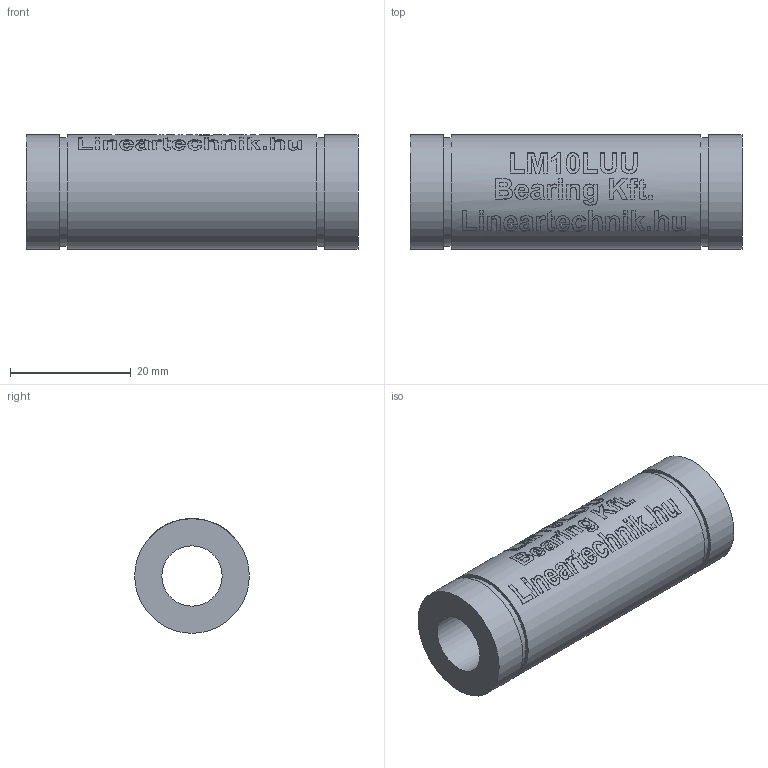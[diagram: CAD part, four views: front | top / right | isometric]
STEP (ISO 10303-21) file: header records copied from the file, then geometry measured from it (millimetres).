
FILE_DESCRIPTION(/* description */ (''),/* implementation_level */ '2;1');
FILE_NAME(/* name */ 'LM10LUU',/* time_stamp */ '2019-05-16T09:38:06+02:00',/* author */ ('VĂ©gh MĂˇtĂ©'),/* organization */ ('Bearing Kft'),/* preprocessor_version */ 'ST-DEVELOPER v16.7',/* originating_system */ 'DEX',/* authorisation */ $);
FILE_SCHEMA (('AUTOMOTIVE_DESIGN {1 0 10303 214 3 1 1}'));
Length unit declared in the file: millimetre
Products named in the file (1): LM10LUU
Bounding box: 55 x 19 x 19 mm (x, y, z)
Volume: 11185.3 mm3; surface area: 5574.2 mm2
Topology: 1 solids, 1 shells, 306 faces, 765 edges, 511 vertices
Faces by surface type: plane 162, bspline 92, cylinder 52
Full cylindrical faces by diameter (mm): 10 x1, 18 x2, 19 x3
Entity records: 18896 total; most frequent: CARTESIAN_POINT 12063, ORIENTED_EDGE 1508, DIRECTION 1146, EDGE_CURVE 754, VERTEX_POINT 509, LINE 418, VECTOR 418, EDGE_LOOP 367
